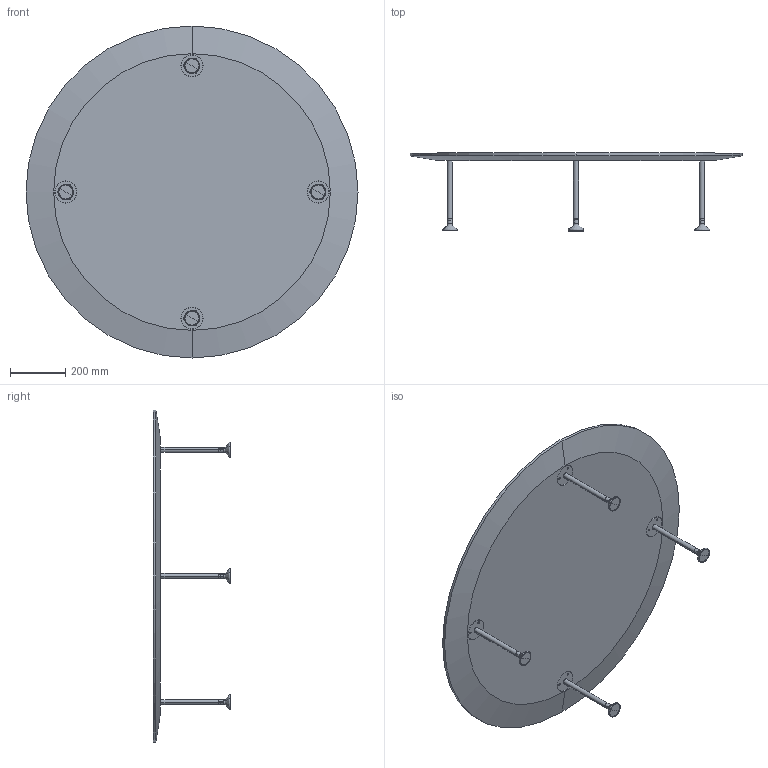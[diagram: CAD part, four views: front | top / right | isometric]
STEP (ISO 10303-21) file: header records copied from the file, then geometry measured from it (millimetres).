
FILE_DESCRIPTION (( 'STEP AP214' ), '1' );
FILE_NAME ('RoundØ1200leg280.STEP', '2017-05-28T19:16:33', ( '' ), ( '' ), 'SwSTEP 2.0', 'SolidWorks 2016', '' );
FILE_SCHEMA (( 'AUTOMOTIVE_DESIGN' ));
Length unit declared in the file: millimetre
Products named in the file (3): Round ﾘ1200; ben280; RoundØ1200leg280
Assembly tree (5 placements, depth 2):
  RoundØ1200leg280
    Round ﾘ1200
    ben280  x4
Bounding box: 1200 x 281 x 1200 mm (x, y, z)
Volume: 26761634.2 mm3; surface area: 2486156.7 mm2
Topology: 13 solids, 13 shells, 130 faces, 306 edges, 190 vertices
Faces by surface type: cylinder 66, bspline 40, plane 22, cone 2
Entity records: 2504 total; most frequent: CARTESIAN_POINT 1380, DIRECTION 214, ORIENTED_EDGE 196, EDGE_CURVE 98, AXIS2_PLACEMENT_3D 94, VERTEX_POINT 64, EDGE_LOOP 60, CIRCLE 50
